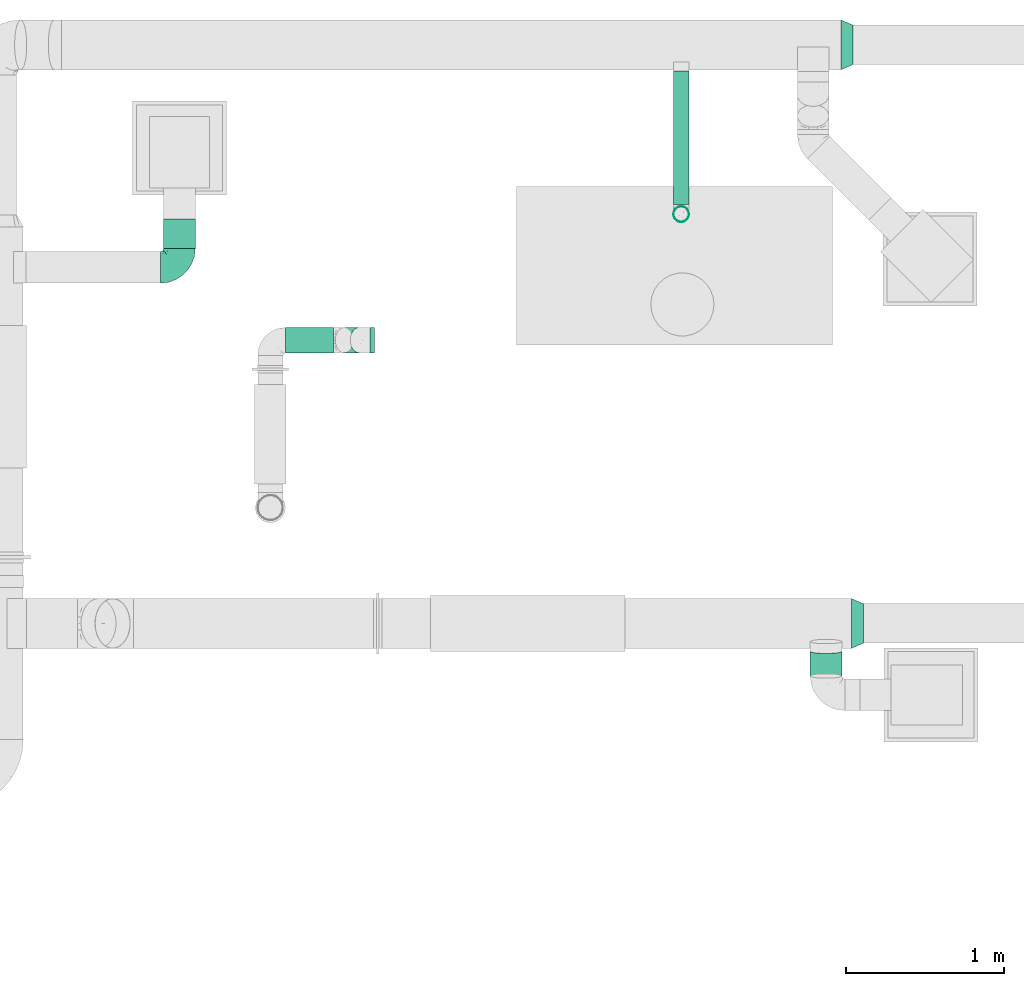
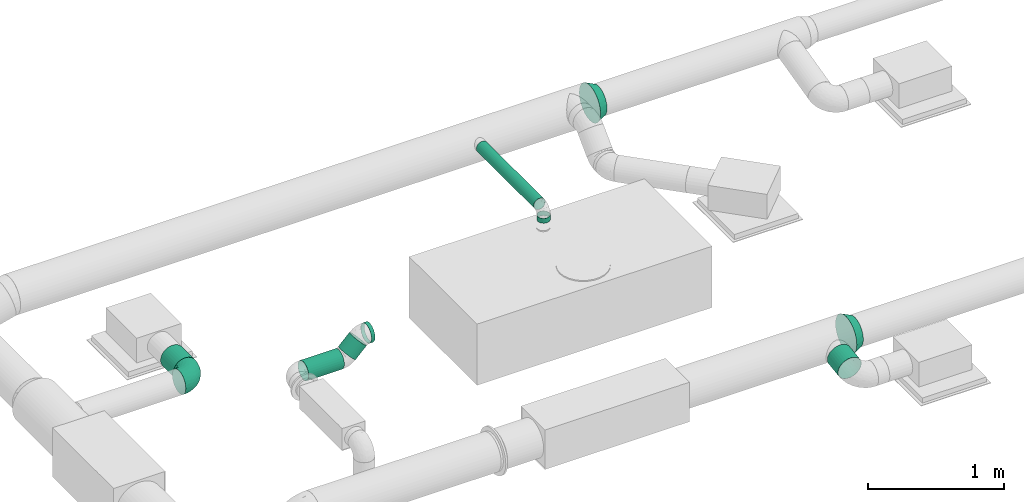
# One storey, part 5 of 16: 7 flow segments, 3 flow fittings.
"""IFC2X3 building model written with IfcOpenShell, lengths in millimetres."""

from ifc_helpers import new_model, entity, si_unit, converted_unit, derived_unit, direction, frame, origin_with_axes, origin_2d_with_axis, place, context, subcontext, project, spatial, hollow_circle, extrude, open_shell, surface_model, source, transform, mapped, type_object, element, save


model = new_model("IFC2X3")

# Units and contexts
model_context = context("Model", 3, precision=0.01, world=frame((0.0, 4.29681676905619e-09, 0.0)), true_north=direction((4.01073788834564e-13, 1.0)))
plan_context = context("Plan", 3, precision=0.01, world=frame((0.0, 4.29681676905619e-09, 0.0)), true_north=direction((4.01073788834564e-13, 1.0)))
body_context = subcontext(model_context, "Body", "Model", "MODEL_VIEW")
ifc_project = project(units=[converted_unit("PLANEANGLEUNIT", "DEGREE", entity("IfcPositiveLengthMeasure", 0.0174532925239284), si_unit("PLANEANGLEUNIT", "RADIAN"), dimensions=[0, 0, 0, 0, 0, 0, 0]), si_unit("AREAUNIT", "SQUARE_METRE"), si_unit("LENGTHUNIT", "METRE", prefix="MILLI"), si_unit("MASSUNIT", "GRAM", prefix="KILO"), si_unit("POWERUNIT", "WATT"), si_unit("PRESSUREUNIT", "PASCAL"), si_unit("FORCEUNIT", "NEWTON", prefix="KILO"), si_unit("ELECTRICVOLTAGEUNIT", "VOLT"), si_unit("ELECTRICCURRENTUNIT", "AMPERE"), si_unit("THERMODYNAMICTEMPERATUREUNIT", "DEGREE_CELSIUS"), si_unit("TIMEUNIT", "SECOND"), si_unit("VOLUMEUNIT", "CUBIC_METRE"), derived_unit("LINEARVELOCITYUNIT", [(si_unit("LENGTHUNIT", "METRE"), 1), (si_unit("TIMEUNIT", "SECOND"), -1)]), derived_unit("VOLUMETRICFLOWRATEUNIT", [(si_unit("VOLUMEUNIT", "CUBIC_METRE"), 1), (si_unit("TIMEUNIT", "SECOND"), -1)]), derived_unit("THERMALTRANSMITTANCEUNIT", [(si_unit("POWERUNIT", "WATT"), 1), (si_unit("THERMODYNAMICTEMPERATUREUNIT", "KELVIN"), -1), (si_unit("AREAUNIT", "SQUARE_METRE"), -1)]), derived_unit("SOUNDPRESSUREUNIT", [(si_unit("PRESSUREUNIT", "PASCAL"), 1)])], contexts=[model_context, plan_context])

# Site, building, storey
site_placement = place(None, frame((0.0, -4.29681676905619e-09, 0.0), z_axis=(0.0, 0.0, 1.0), x_axis=(1.0, 0.0, 0.0)))
site = spatial("IfcSite", under=ifc_project, at=site_placement, Name="ENGM", CompositionType="ELEMENT")
building_placement = place(site_placement, frame((0.0, 4.29681676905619e-09, 0.0), z_axis=(0.0, 0.0, 1.0), x_axis=(1.0, 0.0, 0.0)))
building = spatial("IfcBuilding", under=site, at=building_placement, Name="TH", CompositionType="ELEMENT")
storey_placement = place(building_placement, frame((0.0, 0.0, 210200.0), z_axis=(0.0, 0.0, 1.0), x_axis=(1.0, 0.0, 0.0)))
storey = spatial("IfcBuildingStorey", under=building, at=storey_placement, Name="Nivå F - 0,7 m", CompositionType="ELEMENT", Elevation=210200.0)

# Flow fittings
duct_fitting_type_1 = type_object("IfcDuctFittingType", Name="magicirc_elbow_short_001", PredefinedType="BEND")
shared_shape_1 = source(origin_with_axes(), body_context, "Body", "SurfaceModel", [
    surface_model("IfcShellBasedSurfaceModel", [(-120.0, 0.0, -100.0), (-120.0, -86.60254, -50.0), (-120.0, 25.8819, -96.59259), (-120.0, 50.0, -86.60254), (-120.0, 70.71068, -70.71068), (-120.0, 96.59259, -25.8819), (-120.0, 86.60254, -50.0), (-120.0, -50.0, -86.60254), (-120.0, -70.71068, -70.71068), (-120.0, -25.8819, -96.59259), (-120.0, -96.59259, -25.8819), (-120.0, -100.0, 0.0), (-120.0, 96.59259, 25.8819), (-120.0, -96.59259, 25.8819), (-120.0, 86.60254, 50.0), (-120.0, 25.8819, 96.59259), (-120.0, 50.0, 86.60254), (-120.0, 70.71068, 70.71068), (-120.0, -25.8819, 96.59259), (-120.0, -70.71068, 70.71068), (-120.0, -50.0, 86.60254), (-120.0, -86.60254, 50.0), (-120.0, 0.0, 100.0), (-120.0, 100.0, 0.0), (-25.8819, 120.0, -96.59259), (70.71068, 120.0, -70.71068), (0.0, 120.0, -100.0), (-70.71068, 120.0, -70.71068), (-50.0, 120.0, -86.60254), (-86.60254, 120.0, -50.0), (-96.59259, 120.0, -25.8819), (86.60254, 120.0, -50.0), (25.8819, 120.0, -96.59259), (50.0, 120.0, -86.60254), (100.0, 120.0, 0.0), (96.59259, 120.0, -25.8819), (-96.59259, 120.0, 25.8819), (96.59259, 120.0, 25.8819), (-25.8819, 120.0, 96.59259), (-86.60254, 120.0, 50.0), (-70.71068, 120.0, 70.71068), (-50.0, 120.0, 86.60254), (25.8819, 120.0, 96.59259), (86.60254, 120.0, 50.0), (50.0, 120.0, 86.60254), (70.71068, 120.0, 70.71068), (0.0, 120.0, 100.0), (-100.0, 120.0, 0.0), (-57.47657, 95.22229, 84.95805), (-85.33946, -92.96309, 28.79275), (-95.20929, -97.20676, 0.0), (-84.48473, -65.01559, 72.95431), (-52.96075, -70.60035, 57.16979), (-58.29219, -58.77958, 72.2572), (-71.0454, -94.48414, 0.0), (-33.46621, 86.30074, 96.24781), (-7.45333, 88.76819, 99.94878), (-26.53059, -25.83103, 84.66541), (5.23459, -24.1841, 70.44192), (-1.23107, 1.23105, 87.74618), (-103.71213, 103.71213, 24.44784), (-95.28171, 98.70414, 48.64074), (-78.83961, -43.63421, 87.3226), (48.45058, -8.12007, 40.03254), (39.62941, -27.51041, 22.8702), (55.13075, -9.11298, 21.86769), (27.15427, -27.15428, 47.29752), (-0.9865, -46.35038, 53.41318), (-49.25997, -85.42957, 23.21428), (-69.41482, -80.94006, 48.93369), (34.63169, 2.36241, 66.9375), (-59.03727, -17.74459, 95.19283), (-92.36993, -18.34983, 97.75252), (-98.24586, -81.70799, 55.95793), (-87.21661, 7.38787, 99.96319), (-79.82304, 33.86298, 96.83649), (-103.25245, 34.36931, 94.48617), (-49.8635, 16.95363, 99.89181), (-93.99414, 57.52782, 85.21417), (-13.524, 31.6217, 98.29715), (-30.34675, -2.85909, 94.71053), (-102.74619, 77.59979, 67.01377), (-105.2102, 88.7141, 52.03645), (94.48414, 71.0454, 0.0), (92.96309, 85.33946, 28.79275), (85.42957, 49.25997, 23.21428), (18.34983, 92.36993, 97.75252), (-37.44754, -44.66633, 76.66985), (-66.8783, 56.54931, 92.80405), (65.01559, 84.48473, 72.95431), (43.6342, 78.83961, 87.3226), (37.67702, 38.38344, 81.78155), (58.58205, 33.30331, 61.93165), (58.77958, 58.29217, 72.2572), (14.52663, -47.57763, 31.54394), (81.70799, 98.24586, 55.95793), (97.20676, 95.20929, 0.0), (75.2275, 38.8764, 40.54554), (80.94006, 69.41482, 48.93369), (-19.32309, 64.21329, 99.87988), (-105.85786, 105.85786, 0.0), (17.74458, 59.03726, 95.19283), (70.60036, 52.96074, 57.16978), (-82.76473, 82.76473, 73.92657), (-77.59979, 102.74619, 67.01377), (-38.87641, -75.2275, 40.54555), (-40.86148, 50.04827, 98.96107), (-25.82378, -76.70765, 19.45345), (-49.50418, 71.23352, 93.94065), (-57.3172, 35.12243, 98.9453), (65.10804, 3.68891, 0.0), (65.80674, 11.30259, 30.40508), (15.01777, 28.10412, 90.12797), (-0.1518, 65.0789, 99.29745), (-47.79548, -86.34864, 0.0), (-67.45496, 75.91085, 85.7741), (-3.68891, -65.10804, 0.0), (17.16776, -52.00293, 0.0), (-11.30259, -65.80674, 30.40508), (-24.54558, -78.21315, 0.0), (76.76895, 27.91333, 23.28633), (86.34864, 47.79548, 0.0), (58.40844, 13.74403, 48.13414), (52.00293, -17.16776, 0.0), (20.33542, 8.19535, 80.42602), (-51.11653, -33.50476, 87.58865), (-33.30333, -58.58206, 61.93166), (-17.26255, -60.80757, 47.57586), (78.21315, 24.54558, 0.0), (34.58534, -34.58534, 0.0), (-86.30074, 33.4662, -96.24781), (-34.36932, 103.25245, -94.48617), (-11.30259, -65.80673, -30.40508), (9.11298, -55.13075, -21.86769), (-98.24586, -81.70799, -55.95793), (-88.7682, 7.45333, -99.94878), (43.63421, 78.83961, -87.3226), (-98.70414, 95.28171, -48.64074), (-82.76473, 82.76473, -73.92657), (-102.74619, 77.59979, -67.01377), (85.42957, 49.25997, -23.21428), (75.22749, 38.8764, -40.54555), (80.94006, 69.41482, -48.93369), (27.15427, -27.15428, -47.29753), (47.57763, -14.52663, -31.54396), (27.51041, -39.62941, -22.8702), (-71.23352, 49.50417, -93.94066), (-56.54932, 66.8783, -92.80405), (-50.04827, 40.86148, -98.96107), (-33.86298, 79.82303, -96.83649), (-57.52782, 93.99414, -85.21417), (-16.95364, 49.8635, -99.89182), (-31.6217, 13.52399, -98.29715), (-85.33946, -92.96309, -28.79275), (24.18408, -5.23461, -70.44192), (46.35038, 0.9865, -53.41318), (65.01559, 84.48472, -72.95431), (-84.48473, -65.01559, -72.95431), (-78.83961, -43.63421, -87.3226), (-103.71213, 103.71213, -24.44784), (-95.22229, 57.47657, -84.95805), (-49.25997, -85.42957, -23.21428), (-92.36993, -18.34984, -97.75252), (-38.87641, -75.2275, -40.54555), (-69.41482, -80.94006, -48.93369), (-88.7141, 105.2102, -52.03645), (-7.38786, 87.21659, -99.96319), (17.74459, 59.03726, -95.19283), (-33.30333, -58.58206, -61.93166), (-52.96075, -70.60035, -57.16979), (-77.59979, 102.74619, -67.01377), (-38.38346, -37.67703, -81.78155), (-2.36242, -34.6317, -66.93751), (18.34983, 92.36993, -97.75252), (81.70799, 98.24586, -55.95793), (8.12006, -48.45058, -40.03254), (-1.23106, 1.23105, -87.74618), (25.83103, 26.53058, -84.6654), (92.96309, 85.33946, -28.79275), (76.70765, 25.82378, -19.45345), (-59.03727, -17.74459, -95.19283), (2.8591, 30.34673, -94.71053), (-64.21329, 19.32309, -99.87988), (58.77958, 58.29219, -72.2572), (70.60035, 52.96075, -57.16979), (-58.29219, -58.77958, -72.2572), (-35.12244, 57.3172, -98.9453), (44.66633, 37.44754, -76.66985), (-28.10413, -15.01778, -90.12797), (-65.07891, 0.1518, -99.29745), (-75.91086, 67.45496, -85.7741), (-27.91333, -76.76895, -23.28633), (-13.74403, -58.40844, -48.13415), (65.80673, 11.30258, -30.40508), (-8.19536, -20.33543, -80.42602), (33.50476, 51.11653, -87.58865), (58.58205, 33.30333, -61.93166), (60.80757, 17.26255, -47.57586)], [open_shell([[[0, 1, 2]], [[3, 2, 4]], [[5, 6, 4]], [[1, 4, 2]], [[4, 1, 5]], [[7, 8, 9]], [[8, 0, 9]], [[10, 11, 1]], [[1, 0, 8]], [[1, 11, 5]], [[11, 12, 5]], [[12, 11, 13]], [[14, 12, 15]], [[15, 16, 17]], [[14, 15, 17]], [[15, 12, 18]], [[19, 20, 21]], [[13, 21, 20]], [[13, 20, 12]], [[20, 18, 12]], [[18, 22, 15]], [[23, 5, 12]], [[24, 25, 26]], [[27, 24, 28]], [[27, 29, 30]], [[24, 27, 31]], [[30, 31, 27]], [[32, 25, 33]], [[32, 26, 25]], [[31, 34, 35]], [[25, 24, 31]], [[30, 34, 31]], [[30, 36, 34]], [[37, 34, 36]], [[38, 36, 39]], [[40, 41, 38]], [[40, 38, 39]], [[42, 36, 38]], [[43, 44, 45]], [[44, 43, 37]], [[36, 44, 37]], [[36, 42, 44]], [[38, 46, 42]], [[36, 30, 47]], [[41, 40, 48]], [[49, 13, 50]], [[49, 21, 13]], [[51, 52, 53]], [[50, 54, 49]], [[38, 55, 56]], [[57, 58, 59]], [[60, 61, 36]], [[20, 51, 62]], [[63, 64, 65]], [[66, 58, 67]], [[49, 68, 69]], [[20, 19, 51]], [[58, 66, 70]], [[62, 71, 72]], [[22, 18, 72]], [[73, 19, 21]], [[74, 75, 76]], [[75, 74, 77]], [[16, 76, 78]], [[79, 77, 80]], [[17, 81, 14]], [[82, 12, 14]], [[81, 82, 14]], [[23, 12, 60]], [[83, 84, 85]], [[16, 78, 17]], [[41, 48, 55]], [[42, 46, 86]], [[53, 87, 62]], [[18, 20, 62]], [[75, 88, 78]], [[89, 45, 44]], [[86, 90, 42]], [[60, 12, 82]], [[44, 42, 90]], [[91, 92, 93]], [[84, 37, 43]], [[66, 94, 64]], [[90, 89, 44]], [[45, 95, 43]], [[84, 96, 37]], [[97, 85, 98]], [[15, 76, 16]], [[99, 56, 55]], [[100, 23, 60]], [[91, 90, 101]], [[100, 60, 47]], [[92, 97, 102]], [[103, 104, 61]], [[68, 105, 69]], [[106, 77, 79]], [[61, 39, 36]], [[40, 39, 104]], [[15, 22, 74]], [[107, 105, 68]], [[108, 88, 106]], [[55, 38, 41]], [[56, 46, 38]], [[92, 91, 70]], [[109, 77, 106]], [[110, 111, 65]], [[74, 71, 77]], [[72, 74, 22]], [[80, 71, 57]], [[75, 109, 88]], [[81, 78, 103]], [[112, 79, 59]], [[113, 56, 99]], [[68, 54, 114]], [[73, 49, 69]], [[95, 84, 43]], [[85, 84, 98]], [[104, 48, 40]], [[115, 88, 108]], [[108, 99, 55]], [[56, 113, 86]], [[102, 93, 92]], [[95, 89, 98]], [[73, 51, 19]], [[52, 69, 105]], [[116, 117, 118]], [[68, 119, 107]], [[107, 116, 118]], [[67, 94, 66]], [[97, 111, 120]], [[85, 121, 83]], [[70, 63, 122]], [[65, 123, 110]], [[101, 112, 91]], [[66, 64, 63]], [[124, 91, 112]], [[70, 124, 58]], [[59, 80, 57]], [[58, 87, 67]], [[57, 125, 87]], [[58, 57, 87]], [[99, 108, 106]], [[78, 88, 115]], [[56, 86, 46]], [[90, 86, 101]], [[62, 72, 18]], [[74, 72, 71]], [[61, 104, 39]], [[104, 103, 115]], [[78, 81, 17]], [[82, 103, 61]], [[126, 127, 67]], [[67, 127, 94]], [[85, 128, 121]], [[94, 129, 64]], [[110, 120, 111]], [[63, 65, 111]], [[122, 63, 111]], [[70, 66, 63]], [[79, 80, 59]], [[77, 71, 80]], [[106, 79, 99]], [[113, 79, 101]], [[55, 48, 108]], [[48, 104, 115]], [[48, 115, 108]], [[78, 115, 103]], [[127, 105, 118]], [[105, 127, 52]], [[53, 52, 126]], [[51, 69, 52]], [[87, 53, 126]], [[62, 51, 53]], [[87, 126, 67]], [[57, 71, 125]], [[71, 62, 125]], [[62, 87, 125]], [[102, 97, 98]], [[122, 97, 92]], [[98, 89, 102]], [[93, 102, 89]], [[89, 90, 93]], [[91, 93, 90]], [[97, 122, 111]], [[70, 122, 92]], [[79, 113, 99]], [[86, 113, 101]], [[64, 123, 65]], [[85, 97, 120]], [[79, 112, 101]], [[120, 110, 128]], [[124, 112, 59]], [[58, 124, 59]], [[91, 124, 70]], [[103, 82, 81]], [[82, 61, 60]], [[13, 11, 50]], [[96, 84, 83]], [[96, 34, 37]], [[47, 60, 36]], [[74, 76, 15]], [[78, 76, 75]], [[49, 73, 21]], [[51, 73, 69]], [[89, 95, 45]], [[84, 95, 98]], [[88, 109, 106]], [[75, 77, 109]], [[54, 68, 49]], [[114, 119, 68]], [[105, 107, 118]], [[107, 119, 116]], [[117, 94, 118]], [[127, 126, 52]], [[94, 127, 118]], [[129, 94, 117]], [[129, 123, 64]], [[128, 85, 120]], [[3, 130, 2]], [[24, 131, 28]], [[132, 133, 116]], [[8, 134, 1]], [[2, 135, 0]], [[32, 33, 136]], [[137, 138, 139]], [[140, 141, 142]], [[6, 139, 4]], [[143, 144, 145]], [[6, 5, 137]], [[146, 147, 148]], [[149, 147, 150]], [[148, 151, 152]], [[1, 153, 10]], [[143, 154, 155]], [[153, 50, 10]], [[33, 25, 156]], [[157, 7, 158]], [[159, 137, 5]], [[8, 7, 157]], [[7, 9, 158]], [[3, 4, 160]], [[35, 34, 96]], [[54, 153, 161]], [[9, 162, 158]], [[163, 161, 164]], [[165, 30, 29]], [[23, 100, 159]], [[166, 167, 151]], [[47, 30, 159]], [[168, 163, 169]], [[29, 170, 165]], [[24, 26, 166]], [[168, 171, 172]], [[27, 170, 29]], [[149, 131, 166]], [[160, 130, 3]], [[149, 166, 151]], [[136, 167, 173]], [[174, 25, 31]], [[27, 28, 150]], [[28, 131, 150]], [[32, 173, 26]], [[136, 33, 156]], [[154, 143, 172]], [[2, 130, 135]], [[133, 175, 145]], [[154, 176, 177]], [[9, 0, 162]], [[140, 142, 178]], [[179, 141, 140]], [[96, 83, 178]], [[35, 96, 178]], [[171, 158, 180]], [[152, 151, 181]], [[182, 135, 130]], [[183, 156, 184]], [[171, 168, 185]], [[178, 31, 35]], [[173, 166, 26]], [[159, 5, 23]], [[149, 151, 186]], [[183, 187, 136]], [[181, 167, 177]], [[149, 186, 147]], [[170, 150, 138]], [[188, 152, 176]], [[189, 135, 182]], [[134, 153, 1]], [[161, 153, 164]], [[140, 83, 121]], [[174, 178, 142]], [[139, 160, 4]], [[190, 147, 146]], [[146, 182, 130]], [[135, 189, 162]], [[169, 185, 168]], [[134, 157, 164]], [[174, 156, 25]], [[184, 142, 141]], [[163, 132, 191]], [[161, 114, 54]], [[172, 175, 192]], [[133, 117, 116]], [[110, 123, 193]], [[140, 128, 179]], [[179, 110, 193]], [[155, 144, 143]], [[180, 188, 171]], [[143, 145, 175]], [[194, 171, 188]], [[172, 194, 154]], [[176, 181, 177]], [[154, 187, 155]], [[177, 195, 187]], [[154, 177, 187]], [[182, 146, 148]], [[150, 147, 190]], [[135, 162, 0]], [[158, 162, 180]], [[136, 173, 32]], [[166, 173, 167]], [[137, 139, 6]], [[139, 138, 190]], [[150, 170, 27]], [[165, 138, 137]], [[196, 197, 155]], [[155, 197, 144]], [[197, 196, 184]], [[144, 129, 145]], [[116, 191, 132]], [[175, 133, 132]], [[192, 175, 132]], [[172, 143, 175]], [[152, 181, 176]], [[151, 167, 181]], [[148, 152, 182]], [[189, 152, 180]], [[130, 160, 146]], [[160, 139, 190]], [[160, 190, 146]], [[150, 190, 138]], [[169, 163, 164]], [[192, 163, 168]], [[164, 157, 169]], [[185, 169, 157]], [[157, 158, 185]], [[171, 185, 158]], [[197, 141, 193]], [[141, 197, 184]], [[183, 184, 196]], [[156, 142, 184]], [[187, 183, 196]], [[136, 156, 183]], [[187, 196, 155]], [[177, 167, 195]], [[167, 136, 195]], [[136, 187, 195]], [[163, 192, 132]], [[172, 192, 168]], [[152, 189, 182]], [[162, 189, 180]], [[145, 117, 133]], [[161, 163, 191]], [[152, 188, 180]], [[191, 116, 119]], [[194, 188, 176]], [[154, 194, 176]], [[171, 194, 172]], [[138, 165, 170]], [[165, 137, 159]], [[50, 153, 54]], [[50, 11, 10]], [[47, 159, 100]], [[159, 30, 165]], [[166, 131, 24]], [[150, 131, 149]], [[178, 174, 31]], [[156, 174, 142]], [[157, 134, 8]], [[153, 134, 164]], [[151, 148, 186]], [[147, 186, 148]], [[161, 119, 114]], [[83, 140, 178]], [[121, 128, 140]], [[141, 179, 193]], [[179, 128, 110]], [[123, 144, 193]], [[144, 197, 193]], [[129, 144, 123]], [[129, 117, 145]], [[119, 161, 191]]])]),
])
flow_fitting_placement = place(storey_placement, frame((897744.82148, 484929.58493, 2598.0), z_axis=(0.0, 0.0, 1.0), x_axis=(1.0, 0.0, 0.0)))
element("IfcFlowFitting", 1, at=flow_fitting_placement, inside=storey, type_object=duct_fitting_type_1, Name="magicirc_elbow_short_001", context=body_context, shape_type="MappedRepresentation", body=[
    mapped(shared_shape_1, transform((0.0, 0.0, 0.0), scale=1.0)),
])
duct_fitting_type_2 = type_object("IfcDuctFittingType", Name="magicirc_reduction_001", PredefinedType="TRANSITION")
shared_shape_2 = source(origin_with_axes(), body_context, "Body", "SurfaceModel", [
    surface_model("IfcShellBasedSurfaceModel", [(0.0, 157.5, 0.0), (0.0, 0.0, 157.5), (0.0, 40.764, 152.13332), (0.0, 78.75, 136.39901), (0.0, 111.36932, 111.36932), (0.0, -111.36932, 111.36932), (0.0, -152.13332, -40.764), (0.0, -136.39901, 78.75), (0.0, -152.13332, 40.764), (0.0, 40.764, -152.13332), (0.0, -111.36932, -111.36932), (0.0, -136.39901, -78.75), (0.0, -78.75, 136.39901), (0.0, -157.5, 0.0), (0.0, 111.36932, -111.36932), (0.0, 78.75, -136.39901), (0.0, 0.0, -157.5), (0.0, -40.764, -152.13332), (75.0, 38.62713, 118.88206), (75.0, 118.88206, -38.62713), (75.0, 73.47315, 101.12712), (75.0, 118.88206, 38.62713), (75.0, 125.0, 0.0), (75.0, -101.12712, 73.47315), (75.0, -118.88206, 38.62713), (75.0, -125.0, 0.0), (0.0, 152.13332, 40.764), (0.0, 136.39901, 78.75), (0.0, 136.39901, -78.75), (0.0, -40.764, 152.13332), (75.0, 0.0, 125.0), (75.0, -38.62713, 118.88206), (75.0, -73.47315, 101.12712), (75.0, 101.12712, 73.47315), (75.0, -118.88206, -38.62713), (75.0, 101.12712, -73.47315), (75.0, -73.47315, -101.12712), (75.0, -101.12712, -73.47315), (75.0, -38.62713, -118.88206), (75.0, 38.62713, -118.88206), (75.0, 73.47315, -101.12712), (75.0, 0.0, -125.0), (0.0, 152.13332, -40.764), (0.0, -78.75, -136.39901)], [open_shell([[[0, 1, 2]], [[3, 0, 2]], [[4, 0, 3]], [[5, 6, 7]], [[7, 6, 8]], [[9, 10, 11]], [[0, 6, 1]], [[12, 6, 5]], [[8, 6, 13]], [[14, 15, 9]], [[9, 16, 17]], [[18, 19, 20]], [[21, 19, 22]], [[23, 24, 25]], [[26, 0, 27]], [[14, 9, 28]], [[6, 12, 29]], [[25, 30, 31]], [[25, 32, 23]], [[25, 31, 32]], [[19, 18, 30]], [[33, 20, 19]], [[33, 19, 21]], [[19, 25, 34]], [[35, 34, 36]], [[36, 34, 37]], [[35, 36, 38]], [[19, 34, 35]], [[35, 39, 40]], [[35, 38, 39]], [[41, 39, 38]], [[25, 19, 30]], [[0, 4, 27]], [[6, 29, 1]], [[42, 6, 0]], [[28, 11, 42]], [[9, 11, 28]], [[11, 6, 42]], [[10, 17, 43]], [[17, 10, 9]], [[28, 19, 35]], [[42, 22, 19]], [[15, 40, 39]], [[41, 9, 39]], [[35, 40, 14]], [[16, 9, 41]], [[19, 28, 42]], [[42, 0, 22]], [[35, 14, 28]], [[40, 15, 14]], [[15, 39, 9]], [[17, 41, 38]], [[36, 43, 38]], [[34, 25, 6]], [[37, 34, 11]], [[10, 36, 37]], [[43, 17, 38]], [[43, 36, 10]], [[37, 11, 10]], [[34, 6, 11]], [[13, 6, 25]], [[41, 17, 16]], [[7, 24, 23]], [[8, 25, 24]], [[12, 32, 31]], [[30, 29, 31]], [[23, 32, 5]], [[1, 29, 30]], [[24, 7, 8]], [[8, 13, 25]], [[23, 5, 7]], [[32, 12, 5]], [[12, 31, 29]], [[2, 30, 18]], [[20, 3, 18]], [[21, 22, 26]], [[33, 21, 27]], [[4, 20, 33]], [[3, 2, 18]], [[3, 20, 4]], [[33, 27, 4]], [[21, 26, 27]], [[0, 26, 22]], [[30, 2, 1]]])]),
])
for number, where, z_axis, x_axis, name in (
    (2, (901996.49216, 482676.69257, 2861.60000000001), (0.0, 0.0, 1.0), (1.0, 0.0, 0.0), "magicirc_reduction_001"),
    (3, (901930.30997, 486337.00187, 2743.3186), (0.0, 0.0, 1.0), (1.0, 0.0, 0.0), "magicirc_reduction_001"),
):
    element("IfcFlowFitting", number, at=place(storey_placement, frame(where, z_axis=z_axis, x_axis=x_axis)), inside=storey, type_object=duct_fitting_type_2, Name=name, context=body_context, shape_type="MappedRepresentation", body=[
        mapped(shared_shape_2, transform((0.0, 0.0, 0.0), scale=1.0)),
    ])

# Flow segments
duct_segment_type = type_object("IfcDuctSegmentType", Name="2 - Spiro kanaler, Forsinket stål", PredefinedType="RIGIDSEGMENT")
shared_shape_3 = source(origin_with_axes(), body_context, "Body", "SweptSolid", [
    extrude(hollow_circle(Radius=100.0, WallThickness=2.0, at=origin_2d_with_axis()), frame((0.0, 0.0, 0.0), z_axis=(1.0, 0.0, 0.0), x_axis=(0.0, 1.0, 0.0)), (0.0, 0.0, 1.0), 158.2),
])
flow_segment_1_placement = place(storey_placement, frame((901834.83019, 482500.92944, 2836.82960999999), z_axis=(0.0, -0.139551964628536, 0.990214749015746), x_axis=(0.0, -0.990214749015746, -0.139551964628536)))
element("IfcFlowSegment", 4, at=flow_segment_1_placement, inside=storey, type_object=duct_segment_type, Name="2 - Spiro kanaler, Forsinket stål", context=body_context, shape_type="MappedRepresentation", body=[
    mapped(shared_shape_3, transform((0.0, 0.0, 0.0), scale=1.0)),
])
shared_shape_4 = source(origin_with_axes(), body_context, "Body", "SweptSolid", [
    extrude(hollow_circle(Radius=50.0, WallThickness=2.0, at=origin_2d_with_axis()), frame((0.0, 0.0, 0.0), z_axis=(1.0, 0.0, 0.0), x_axis=(0.0, 1.0, 0.0)), (0.0, 0.0, 1.0), 845.5),
])
flow_segment_2_placement = place(storey_placement, frame((900918.80745, 486171.36076, 2803.20000000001), z_axis=(0.0, 0.0, 1.0), x_axis=(0.0, -1.0, 0.0)))
element("IfcFlowSegment", 5, at=flow_segment_2_placement, inside=storey, type_object=duct_segment_type, Name="2 - Spiro kanaler, Forsinket stål", context=body_context, shape_type="MappedRepresentation", body=[
    mapped(shared_shape_4, transform((0.0, 0.0, 0.0), scale=1.0)),
])
shared_shape_5 = source(origin_with_axes(), body_context, "Body", "SweptSolid", [
    extrude(hollow_circle(Radius=50.0, WallThickness=2.0, at=origin_2d_with_axis()), frame((0.0, 0.0, 0.0), z_axis=(1.0, 0.0, 0.0), x_axis=(0.0, 1.0, 0.0)), (0.0, 0.0, 1.0), 43.2),
])
flow_segment_3_placement = place(storey_placement, frame((900918.80745, 485265.84144, 2700.0), z_axis=(0.0, 1.0, 0.0), x_axis=(0.0, 0.0, 1.0)))
element("IfcFlowSegment", 6, at=flow_segment_3_placement, inside=storey, type_object=duct_segment_type, Name="2 - Spiro kanaler, Forsinket stål", context=body_context, shape_type="MappedRepresentation", body=[
    mapped(shared_shape_5, transform((0.0, 0.0, 0.0), scale=1.0)),
])
shared_shape_6 = source(origin_with_axes(), body_context, "Body", "SweptSolid", [
    extrude(hollow_circle(Radius=80.0, WallThickness=2.0, at=origin_2d_with_axis()), frame((0.0, 0.0, 0.0), z_axis=(1.0, 0.0, 0.0), x_axis=(0.0, 1.0, 0.0)), (0.0, 0.0, 1.0), 303.4),
])
flow_segment_4_placement = place(storey_placement, frame((898718.97298, 484469.03742, 2700.0), z_axis=(0.0, 0.0, 1.0), x_axis=(-1.0, 0.0, 0.0)))
element("IfcFlowSegment", 7, at=flow_segment_4_placement, inside=storey, type_object=duct_segment_type, Name="2 - Spiro kanaler, Forsinket stål", context=body_context, shape_type="MappedRepresentation", body=[
    mapped(shared_shape_6, transform((0.0, 0.0, 0.0), scale=1.0)),
])
shared_shape_7 = source(origin_with_axes(), body_context, "Body", "SweptSolid", [
    extrude(hollow_circle(Radius=80.0, WallThickness=2.0, at=origin_2d_with_axis()), frame((0.0, 0.0, 0.0), z_axis=(1.0, 0.0, 0.0), x_axis=(0.0, 1.0, 0.0)), (0.0, 0.0, 1.0), 30.4),
])
flow_segment_5_placement = place(storey_placement, frame((898979.6162, 484469.03742, 2850.74776), z_axis=(0.0, 0.0, 1.0), x_axis=(-1.0, 0.0, 0.0)))
element("IfcFlowSegment", 8, at=flow_segment_5_placement, inside=storey, type_object=duct_segment_type, Name="2 - Spiro kanaler, Forsinket stål", context=body_context, shape_type="MappedRepresentation", body=[
    mapped(shared_shape_7, transform((0.0, 0.0, 0.0), scale=1.0)),
])
shared_shape_8 = source(origin_with_axes(), body_context, "Body", "SweptSolid", [
    extrude(hollow_circle(Radius=80.0, WallThickness=2.0, at=origin_2d_with_axis()), frame((0.0, 0.0, 0.0), z_axis=(1.0, 0.0, 0.0), x_axis=(0.0, 1.0, 0.0)), (0.0, 0.0, 1.0), 133.7),
])
flow_segment_6_placement = place(storey_placement, frame((898881.36743, 484469.03742, 2822.62998999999), z_axis=(-0.707106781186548, 0.0, 0.707106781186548), x_axis=(-0.707106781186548, 0.0, -0.707106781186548)))
element("IfcFlowSegment", 9, at=flow_segment_6_placement, inside=storey, type_object=duct_segment_type, Name="2 - Spiro kanaler, Forsinket stål", context=body_context, shape_type="MappedRepresentation", body=[
    mapped(shared_shape_8, transform((0.0, 0.0, 0.0), scale=1.0)),
])
shared_shape_9 = source(origin_with_axes(), body_context, "Body", "SweptSolid", [
    extrude(hollow_circle(Radius=100.0, WallThickness=2.0, at=origin_2d_with_axis()), frame((0.0, 0.0, 0.0), z_axis=(1.0, 0.0, 0.0), x_axis=(0.0, 1.0, 0.0)), (0.0, 0.0, 1.0), 186.6),
])
flow_segment_7_placement = place(storey_placement, frame((897744.82148, 485236.2279, 2598.0), z_axis=(0.0, 0.0, 1.0), x_axis=(0.0, -1.0, 0.0)))
element("IfcFlowSegment", 10, at=flow_segment_7_placement, inside=storey, type_object=duct_segment_type, Name="2 - Spiro kanaler, Forsinket stål", context=body_context, shape_type="MappedRepresentation", body=[
    mapped(shared_shape_9, transform((0.0, 0.0, 0.0), scale=1.0)),
])

save(model, "model.ifc")
